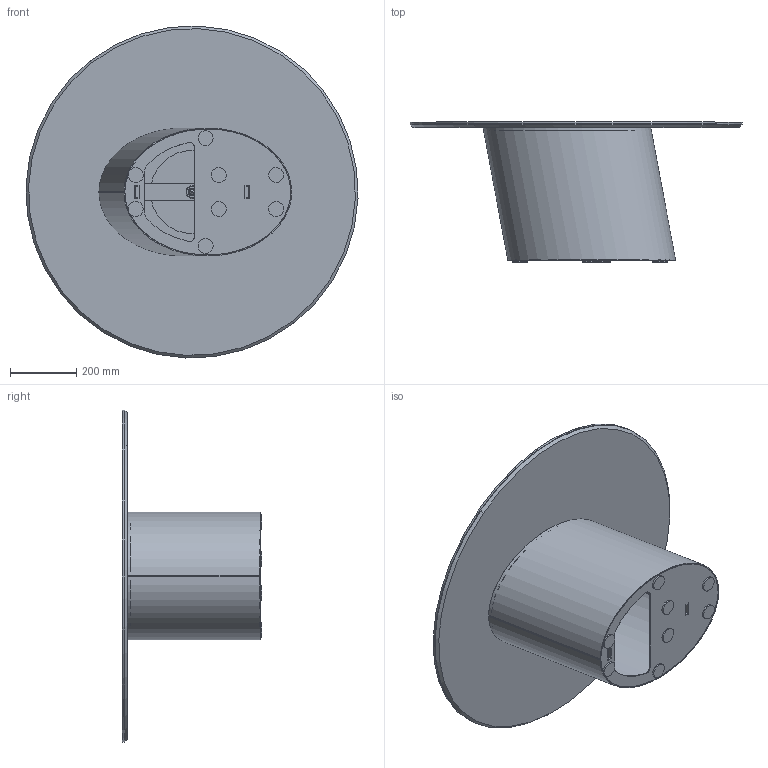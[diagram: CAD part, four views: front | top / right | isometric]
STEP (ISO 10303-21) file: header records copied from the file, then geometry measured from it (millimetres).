
FILE_DESCRIPTION (( 'STEP AP203' ), '1' );
FILE_NAME ('D203C.STEP', '2024-08-07T11:22:29', ( '' ), ( '' ), 'SwSTEP 2.0', 'SolidWorks 2022', '' );
FILE_SCHEMA (( 'CONFIG_CONTROL_DESIGN' ));
Length unit declared in the file: millimetre
Products named in the file (8): Parte2^Dxxxx-00-DORADO LOW; D2B000001-00-BASAMENTO DORADO LOW H420_Default<A macchina>; M8xXXmm_M8X35mm; D203C; K1XCMXX-00-Piani Rotondi in ceramica_D.1000; KXXCXX-00-Piani Rotondi in ceramica CON PIASTRA_K03P PIANO CERAMICA D.100cm; P0000005-00-FILETTO M24 CON FORO H.20mm; P0000003-00-STAFFA DI FISSAGGIO DIAMETRO 250_P0000003-250mm normale
Assembly tree (14 placements, depth 3):
  D203C
    D2B000001-00-BASAMENTO DORADO LOW H420_Default<A macchina>
    Parte2^Dxxxx-00-DORADO LOW  x8
    KXXCXX-00-Piani Rotondi in ceramica CON PIASTRA_K03P PIANO CERAMICA D.100cm
      K1XCMXX-00-Piani Rotondi in ceramica_D.1000
      P0000003-00-STAFFA DI FISSAGGIO DIAMETRO 250_P0000003-250mm normale
      M8xXXmm_M8X35mm
      P0000005-00-FILETTO M24 CON FORO H.20mm
Bounding box: 999.3 x 421 x 999.3 mm (x, y, z)
Volume: 15024598.6 mm3; surface area: 4966260.4 mm2
Topology: 20 solids, 20 shells, 246 faces, 593 edges, 386 vertices
Faces by surface type: cylinder 102, plane 102, cone 21, bspline 17, torus 4
Entity records: 12838 total; most frequent: CARTESIAN_POINT 6656, ORIENTED_EDGE 1098, DIRECTION 1038, EDGE_CURVE 549, AXIS2_PLACEMENT_3D 389, VERTEX_POINT 358, LINE 260, VECTOR 260
